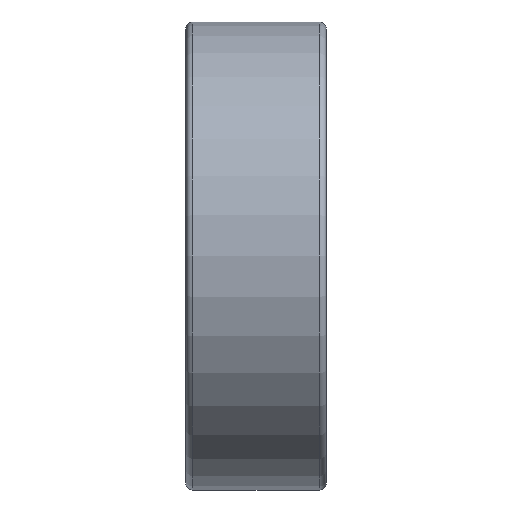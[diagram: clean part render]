
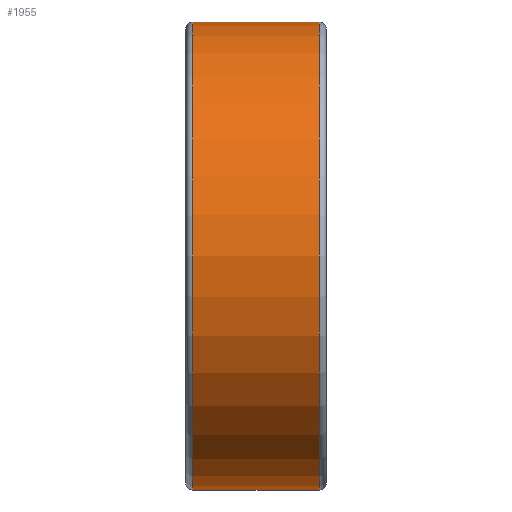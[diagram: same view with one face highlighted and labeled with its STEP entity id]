
A CAD part, front view. The second image highlights one B-rep face of the part: STEP entity #1955.
In plain terms, the highlighted cylindrical face has radius 20 mm (diameter 40 mm), a full revolution.
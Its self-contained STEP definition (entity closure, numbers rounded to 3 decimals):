
#421=CYLINDRICAL_SURFACE('',#2107,20.);
#475=FACE_BOUND('',#696,.T.);
#553=FACE_OUTER_BOUND('',#695,.T.);
#695=EDGE_LOOP('',(#1461));
#696=EDGE_LOOP('',(#1462));
#880=CIRCLE('',#2106,20.);
#881=CIRCLE('',#2108,20.);
#1004=VERTEX_POINT('',#3061);
#1005=VERTEX_POINT('',#3064);
#1192=EDGE_CURVE('',#1004,#1004,#880,.T.);
#1193=EDGE_CURVE('',#1005,#1005,#881,.T.);
#1461=ORIENTED_EDGE('',*,*,#1193,.F.);
#1462=ORIENTED_EDGE('',*,*,#1192,.T.);
#1955=ADVANCED_FACE('',(#553,#475),#421,.T.);
#2106=AXIS2_PLACEMENT_3D('',#3062,#2414,#2415);
#2107=AXIS2_PLACEMENT_3D('',#3063,#2416,#2417);
#2108=AXIS2_PLACEMENT_3D('',#3065,#2418,#2419);
#2414=DIRECTION('center_axis',(-1.,0.,0.));
#2415=DIRECTION('ref_axis',(0.,0.,1.));
#2416=DIRECTION('center_axis',(-1.,0.,0.));
#2417=DIRECTION('ref_axis',(0.,-1.,0.));
#2418=DIRECTION('center_axis',(-1.,0.,0.));
#2419=DIRECTION('ref_axis',(0.,0.,1.));
#3061=CARTESIAN_POINT('',(8.65,-20.,0.));
#3062=CARTESIAN_POINT('Origin',(8.65,0.,0.));
#3063=CARTESIAN_POINT('Origin',(3.25,0.,0.));
#3064=CARTESIAN_POINT('',(-2.15,-20.,0.));
#3065=CARTESIAN_POINT('Origin',(-2.15,0.,0.));
